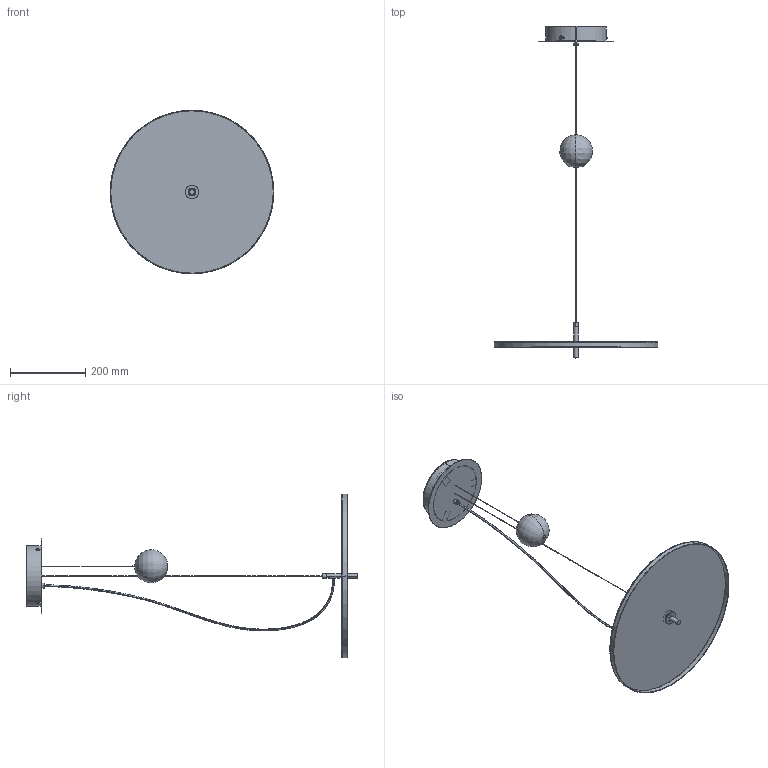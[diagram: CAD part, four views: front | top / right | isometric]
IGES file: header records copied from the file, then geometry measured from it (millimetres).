
Start section: SolidWorks IGES file using analytic representation for surfaces
Global section: file name: C:\SANTACOLE_PDM\Proyectos Catálogo\PROD-P12-011 -- Plano Redondo\6_Técnico comercial\3D\BlancoWhite D2 ceiling.IGS; native system: SolidWorks 2019; preprocessor: SolidWorks 2019; author: aina.morell; date: 200403.120807; units: millimetre
Bounding box: 436 x 885 x 436 mm (x, y, z)
Surface area: 551141.8 mm2 (no closed solid volume)
Topology: 0 solids, 0 shells, 276 faces, 4590 edges, 4590 vertices
Faces by surface type: bspline 149, revolution 127
